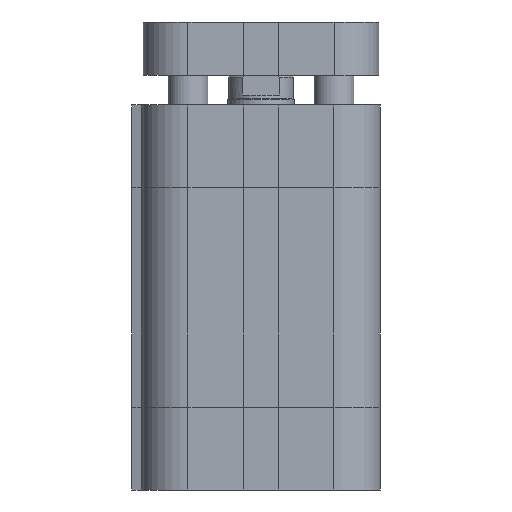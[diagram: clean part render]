
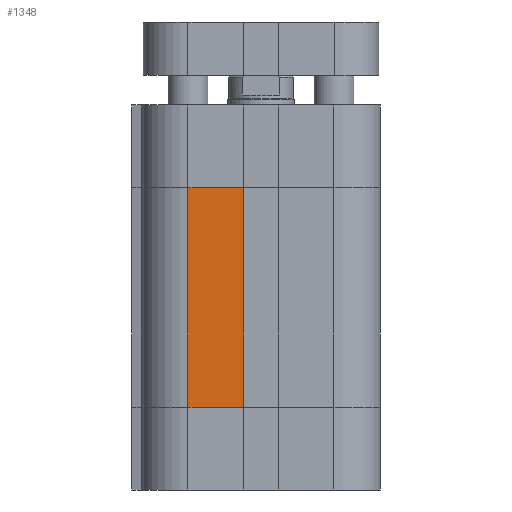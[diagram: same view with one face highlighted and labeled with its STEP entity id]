
A CAD part, left-side view. The second image highlights one B-rep face of the part: STEP entity #1348.
In plain terms, the highlighted planar face has unit normal (-1, 0, 0).
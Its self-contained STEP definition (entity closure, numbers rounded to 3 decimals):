
#1259=CARTESIAN_POINT('',(-18.,11.0,12.5));
#1260=VERTEX_POINT('',#1259);
#1268=CARTESIAN_POINT('',(-18.,11.0,45.5));
#1269=VERTEX_POINT('',#1268);
#1270=CARTESIAN_POINT('',(-18.,11.0,12.5));
#1271=DIRECTION('',(0.0,0.0,1.0));
#1272=VECTOR('',#1271,33.);
#1273=LINE('',#1270,#1272);
#1274=EDGE_CURVE('',#1260,#1269,#1273,.T.);
#1318=CARTESIAN_POINT('',(-18.0,2.6,0.0));
#1319=DIRECTION('',(-1.0,0.0,0.0));
#1320=DIRECTION('',(0.0,0.0,1.0));
#1321=AXIS2_PLACEMENT_3D('',#1318,#1319,#1320);
#1322=PLANE('',#1321);
#1323=CARTESIAN_POINT('',(-18.0,2.6,12.5));
#1324=VERTEX_POINT('',#1323);
#1325=CARTESIAN_POINT('',(-18.,11.0,12.5));
#1326=DIRECTION('',(0.0,-1.0,0.0));
#1327=VECTOR('',#1326,8.4);
#1328=LINE('',#1325,#1327);
#1329=EDGE_CURVE('',#1260,#1324,#1328,.T.);
#1330=ORIENTED_EDGE('',*,*,#1329,.T.);
#1331=CARTESIAN_POINT('',(-18.0,2.6,45.5));
#1332=VERTEX_POINT('',#1331);
#1333=CARTESIAN_POINT('',(-18.0,2.6,12.5));
#1334=DIRECTION('',(0.0,0.0,1.0));
#1335=VECTOR('',#1334,33.);
#1336=LINE('',#1333,#1335);
#1337=EDGE_CURVE('',#1324,#1332,#1336,.T.);
#1338=ORIENTED_EDGE('',*,*,#1337,.T.);
#1339=CARTESIAN_POINT('',(-18.,11.0,45.5));
#1340=DIRECTION('',(0.0,-1.0,0.0));
#1341=VECTOR('',#1340,8.4);
#1342=LINE('',#1339,#1341);
#1343=EDGE_CURVE('',#1269,#1332,#1342,.T.);
#1344=ORIENTED_EDGE('',*,*,#1343,.F.);
#1345=ORIENTED_EDGE('',*,*,#1274,.F.);
#1346=EDGE_LOOP('',(#1330,#1338,#1344,#1345));
#1347=FACE_OUTER_BOUND('',#1346,.T.);
#1348=ADVANCED_FACE('',(#1347),#1322,.T.);
